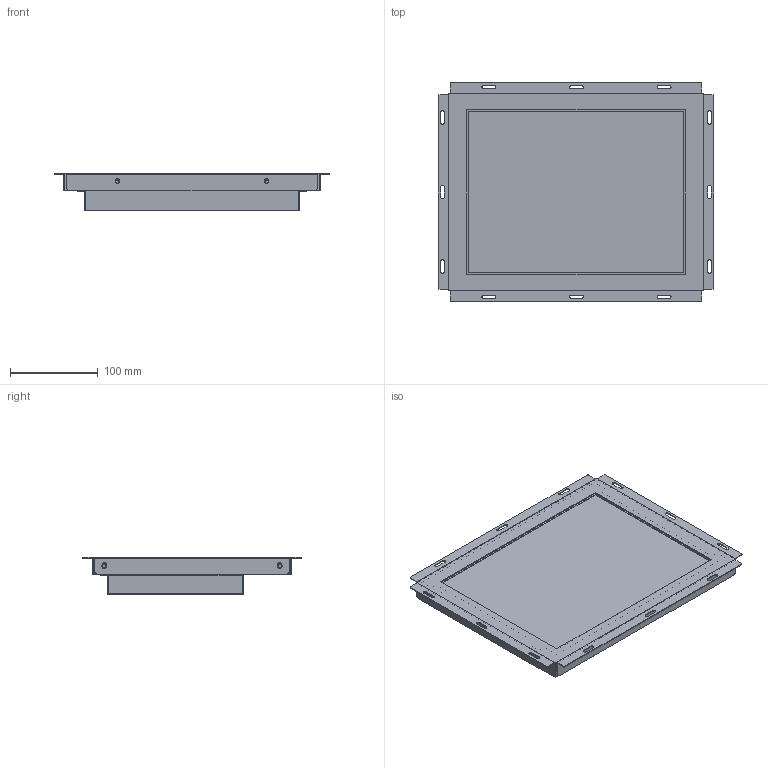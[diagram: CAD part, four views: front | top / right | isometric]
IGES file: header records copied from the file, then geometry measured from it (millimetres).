
Global section: file name: FIE120LM; native system: AutoCAD 2019 – 繁體中文 (Traditional Chinese),62HAutode; preprocessor: sk Translation Framework DWG producer (atf_dwg_producer); organization: unknown; date: 20210624.173852; units: millimetre
Bounding box: 314.5 x 249 x 43 mm (x, y, z)
Volume: 546012.9 mm3; surface area: 551609.7 mm2
Topology: 10 solids, 10 shells, 921 faces, 2390 edges, 1572 vertices
Faces by surface type: bspline 921
